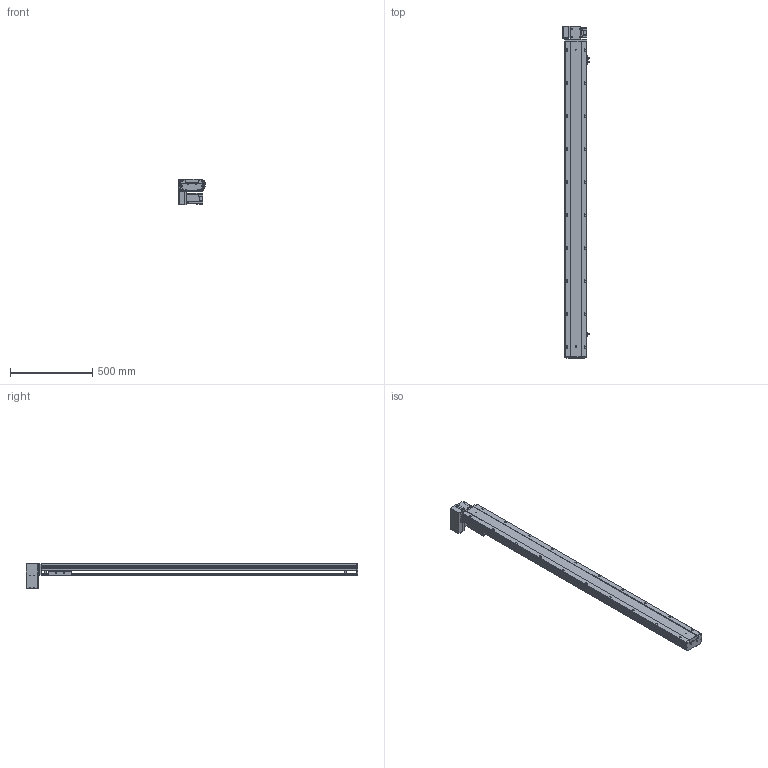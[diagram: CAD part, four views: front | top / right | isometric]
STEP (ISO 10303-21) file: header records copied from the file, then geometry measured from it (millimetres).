
FILE_DESCRIPTION (( 'STEP AP203' ), '1' );
FILE_NAME ('165.STEP', '2022-07-21T12:19:11', ( '' ), ( '' ), 'SwSTEP 2.0', 'SolidWorks 2016', '' );
FILE_SCHEMA (( 'CONFIG_CONTROL_DESIGN' ));
Length unit declared in the file: millimetre
Products named in the file (10): BTB14-L-02; BTB14-L-HZ; BTB14-L-菁釱_XD; BTB14-L-06; BTB14-L-01; BTB14-L-M40; 165; BTB14-L-04; BTB14-L-23; BTB14-L-24
Assembly tree (12 placements, depth 2):
  165
    BTB14-L-菁釱_XD
    BTB14-L-01
    BTB14-L-02
    BTB14-L-04  x3
    BTB14-L-06
    BTB14-L-23  x2
    BTB14-L-24
    BTB14-L-HZ
    BTB14-L-M40
Bounding box: 160.7 x 2012.5 x 156.7 mm (x, y, z)
Volume: 8897400.7 mm3; surface area: 1852161.9 mm2
Topology: 22 solids, 22 shells, 1654 faces, 4373 edges, 2782 vertices
Faces by surface type: plane 937, cylinder 488, cone 140, bspline 77, torus 12
Entity records: 43978 total; most frequent: CARTESIAN_POINT 10773, ORIENTED_EDGE 6636, DIRECTION 6624, EDGE_CURVE 3318, VECTOR 2242, LINE 2242, AXIS2_PLACEMENT_3D 2191, VERTEX_POINT 2160
